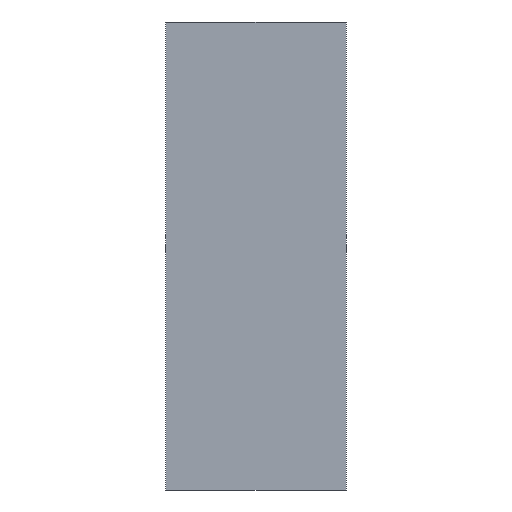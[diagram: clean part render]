
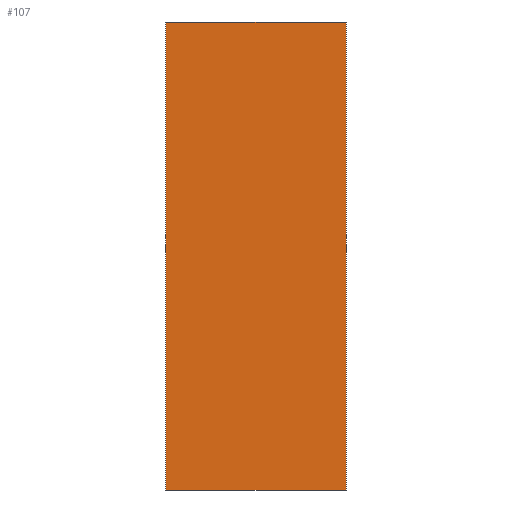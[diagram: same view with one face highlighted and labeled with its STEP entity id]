
A CAD part, front view. The second image highlights one B-rep face of the part: STEP entity #107.
In plain terms, the highlighted planar face has unit normal (0, -1, 0).
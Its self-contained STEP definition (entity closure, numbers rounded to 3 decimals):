
#21=FACE_OUTER_BOUND('',#27,.T.);
#27=EDGE_LOOP('',(#92,#93,#94,#95));
#30=LINE('',#162,#42);
#33=LINE('',#168,#45);
#36=LINE('',#174,#48);
#39=LINE('',#178,#51);
#42=VECTOR('',#134,10.);
#45=VECTOR('',#139,10.);
#48=VECTOR('',#144,10.);
#51=VECTOR('',#149,10.);
#54=VERTEX_POINT('',#159);
#55=VERTEX_POINT('',#161);
#57=VERTEX_POINT('',#167);
#59=VERTEX_POINT('',#173);
#62=EDGE_CURVE('',#55,#54,#30,.T.);
#65=EDGE_CURVE('',#57,#55,#33,.T.);
#68=EDGE_CURVE('',#59,#57,#36,.T.);
#71=EDGE_CURVE('',#54,#59,#39,.T.);
#92=ORIENTED_EDGE('',*,*,#71,.T.);
#93=ORIENTED_EDGE('',*,*,#68,.T.);
#94=ORIENTED_EDGE('',*,*,#65,.T.);
#95=ORIENTED_EDGE('',*,*,#62,.T.);
#101=PLANE('',#127);
#107=ADVANCED_FACE('',(#21),#101,.T.);
#127=AXIS2_PLACEMENT_3D('',#180,#152,#153);
#134=DIRECTION('',(0.,0.,1.));
#139=DIRECTION('',(1.,0.,0.));
#144=DIRECTION('',(0.,0.,-1.));
#149=DIRECTION('',(-1.,0.,0.));
#152=DIRECTION('center_axis',(0.,-1.,0.));
#153=DIRECTION('ref_axis',(0.,0.,-1.));
#159=CARTESIAN_POINT('',(370.,-100.,960.));
#161=CARTESIAN_POINT('',(370.,-100.,0.));
#162=CARTESIAN_POINT('',(370.,-100.,0.));
#167=CARTESIAN_POINT('',(0.,-100.,0.));
#168=CARTESIAN_POINT('',(0.,-100.,0.));
#173=CARTESIAN_POINT('',(0.,-100.,960.));
#174=CARTESIAN_POINT('',(0.,-100.,960.));
#178=CARTESIAN_POINT('',(370.,-100.,960.));
#180=CARTESIAN_POINT('Origin',(185.,-100.,480.));
